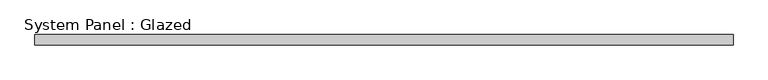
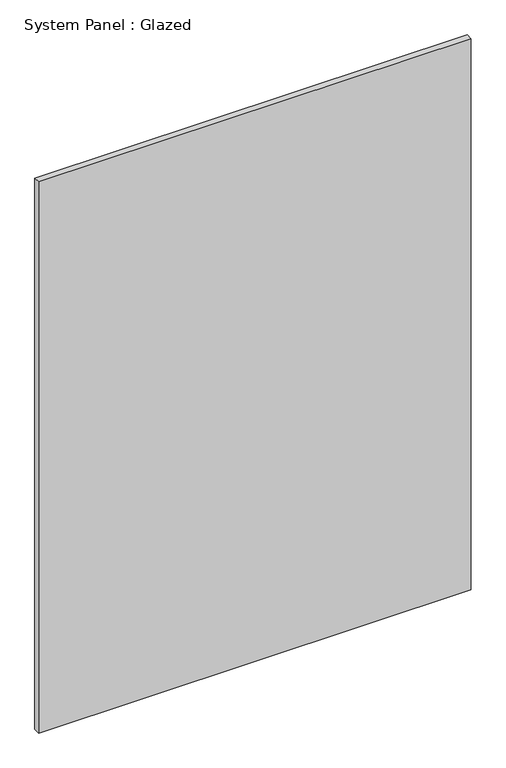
"""IFC4 building model written with IfcOpenShell, lengths in millimetres: plate geometry, System Panel : Glazed."""

import ifcopenshell
import ifcopenshell.guid

model = None  # the IFC model being written
_history = None  # IfcOwnerHistory: only IFC2X3 demands one
_inside = {}  # id of a spatial element -> (the spatial element, [elements in it])
_under = {}  # id of a project, library or spatial element -> (it, [spatial elements below it])
_declared = {}  # id of a project -> (the project, [libraries it declares])
_typed = {}  # id of a type object -> (the type object, [elements of that type])
_made_of = {}  # id of a material, layer set ... -> (it, [elements and type objects made of it])


def new_model(schema):
    """Start an empty IFC model of exactly this schema.

    Asked for "IFC4X3", IfcOpenShell would pick the latest addendum, in which some entities
    have other attributes; the version numbers below select the first issue.
    IFC2X3 requires an IfcOwnerHistory on every rooted entity: one is made here for all.
    """
    global model, _history
    if schema == "IFC4X3":
        model = ifcopenshell.file(schema_version=(4, 3, 0, 0))
    else:
        model = ifcopenshell.file(schema=schema)
    _inside.clear()
    _under.clear()
    _declared.clear()
    _typed.clear()
    _made_of.clear()
    _history = None
    if model.schema == "IFC2X3":
        org = make("IfcOrganization", Name="unknown")
        user = make(
            "IfcPersonAndOrganization",
            ThePerson=make("IfcPerson", FamilyName="unknown"),
            TheOrganization=org,
        )
        app = make(
            "IfcApplication",
            ApplicationDeveloper=org,
            Version="unknown",
            ApplicationFullName="unknown",
            ApplicationIdentifier="unknown",
        )
        _history = make(
            "IfcOwnerHistory",
            OwningUser=user,
            OwningApplication=app,
            ChangeAction="ADDED",
            CreationDate=0,
        )
    return model


def make(cls, **values):
    """One entity of the class cls with the attributes given. An attribute that is None is left unset."""
    return model.create_entity(
        cls, **{name: value for name, value in values.items() if value is not None}
    )


def rooted(cls, **values):
    """An entity with a GlobalId (a new one), such as an element, a storey or a relation."""
    return make(cls, GlobalId=ifcopenshell.guid.new(), OwnerHistory=_history, **values)


def si_unit(unit_type, name, prefix=None):
    """IfcSIUnit, for example si_unit("LENGTHUNIT", "METRE", prefix="MILLI")."""
    return make("IfcSIUnit", UnitType=unit_type, Prefix=prefix, Name=name)


def assignment(units):
    """IfcUnitAssignment: the units of a project."""
    return None if units is None else make("IfcUnitAssignment", Units=units)


def point(xyz):
    """IfcCartesianPoint."""
    return None if xyz is None else make("IfcCartesianPoint", Coordinates=xyz)


def direction(xyz):
    """IfcDirection."""
    return None if xyz is None else make("IfcDirection", DirectionRatios=xyz)


def frame(location, z_axis=None, x_axis=None):
    """IfcAxis2Placement3D, a coordinate frame: its origin and axes. An axis left out is left unset."""
    return make(
        "IfcAxis2Placement3D",
        Location=point(location),
        Axis=direction(z_axis),
        RefDirection=direction(x_axis),
    )


def origin():
    """The frame at (0, 0, 0) with its axes left unset."""
    return frame((0.0, 0.0, 0.0))


def origin_with_axes():
    """The frame at (0, 0, 0) with the z axis (0, 0, 1) and the x axis (1, 0, 0) written out."""
    return frame((0.0, 0.0, 0.0), z_axis=(0.0, 0.0, 1.0), x_axis=(1.0, 0.0, 0.0))


def place(relative_to, where):
    """IfcLocalPlacement: puts the frame where relative to a parent placement (None: the world)."""
    return make(
        "IfcLocalPlacement", PlacementRelTo=relative_to, RelativePlacement=where
    )


def context(
    kind, dimensions, precision=None, world=None, true_north=None, identifier=None
):
    """IfcGeometricRepresentationContext, for example the 3D "Model" context."""
    return make(
        "IfcGeometricRepresentationContext",
        ContextIdentifier=identifier,
        ContextType=kind,
        CoordinateSpaceDimension=dimensions,
        Precision=precision,
        WorldCoordinateSystem=world,
        TrueNorth=true_north,
    )


def project(units=None, contexts=None):
    """IfcProject with its units and contexts."""
    return rooted(
        "IfcProject",
        Name="project",
        RepresentationContexts=contexts,
        UnitsInContext=assignment(units),
    )


def spatial(cls, under=None, at=None, **own):
    """A site, building, storey or space (cls), placed at a placement, below another one or the project."""
    s = rooted(cls, ObjectPlacement=at, **own)
    if under is not None:
        _under.setdefault(under.id(), (under, []))[1].append(s)
    return s


def polyline(points):
    """IfcPolyline through the points."""
    return make("IfcPolyline", Points=[point(p) for p in points])


def outline(outer, holes=None, kind="AREA"):
    """IfcArbitraryClosedProfileDef: a profile drawn as a closed curve; with holes, ...WithVoids."""
    if holes is None:
        return make("IfcArbitraryClosedProfileDef", ProfileType=kind, OuterCurve=outer)
    return make(
        "IfcArbitraryProfileDefWithVoids",
        ProfileType=kind,
        OuterCurve=outer,
        InnerCurves=holes,
    )


def extrude(swept, where, along, depth):
    """IfcExtrudedAreaSolid: the profile swept, set in the frame where, extruded along a direction by depth."""
    return make(
        "IfcExtrudedAreaSolid",
        SweptArea=swept,
        Position=where,
        ExtrudedDirection=direction(along),
        Depth=depth,
    )


def shape(context_of_items, identifier, shape_type, items):
    """IfcShapeRepresentation: the items that make up one representation, for example the "Body"."""
    return make(
        "IfcShapeRepresentation",
        ContextOfItems=context_of_items,
        RepresentationIdentifier=identifier,
        RepresentationType=shape_type,
        Items=items,
    )


def source(mapping_origin, context_of_items, identifier, shape_type, items):
    """IfcRepresentationMap: a shape defined once, which mapped items show again and again."""
    return make(
        "IfcRepresentationMap",
        MappingOrigin=mapping_origin,
        MappedRepresentation=shape(context_of_items, identifier, shape_type, items),
    )


def transform(
    local_origin,
    x_axis=None,
    y_axis=None,
    z_axis=None,
    scale=None,
    scale2=None,
    scale3=None,
    uniform=True,
):
    """IfcCartesianTransformationOperator3D, or its non-uniform kind. x_axis, y_axis, z_axis: its Axis1, 2, 3."""
    if uniform:
        return make(
            "IfcCartesianTransformationOperator3D",
            Axis1=direction(x_axis),
            Axis2=direction(y_axis),
            LocalOrigin=point(local_origin),
            Scale=scale,
            Axis3=direction(z_axis),
        )
    return make(
        "IfcCartesianTransformationOperator3DnonUniform",
        Axis1=direction(x_axis),
        Axis2=direction(y_axis),
        LocalOrigin=point(local_origin),
        Scale=scale,
        Axis3=direction(z_axis),
        Scale2=scale2,
        Scale3=scale3,
    )


def mapped(mapping_source, mapping_target):
    """IfcMappedItem: shows the shape of a source again, moved by a transform."""
    return make(
        "IfcMappedItem", MappingSource=mapping_source, MappingTarget=mapping_target
    )


def made_of(thing, what):
    """Note that an element or type object is made of a material, layer set ...; save() writes the relation."""
    if what is not None:
        _made_of.setdefault(what.id(), (what, []))[1].append(thing)
    return thing


def element(
    cls,
    number,
    at=None,
    inside=None,
    cuts=None,
    type_object=None,
    material=None,
    context=None,
    identifier="Body",
    shape_type=None,
    held_by="IfcProductDefinitionShape",
    body=None,
    shapes=None,
    **own,
):
    """One element of the class cls, such as IfcWall. Its Tag is "e" and its number.

    at: its placement. inside: the storey or other place that contains it. cuts: it is an
    opening in that element (IfcRelVoidsElement). A single representation is given by context,
    identifier, shape_type and body (its items); several are given by shapes. held_by: the class
    of the entity that holds the representations. save() writes the other relations.
    """
    e = rooted(cls, Tag="e%d" % number, ObjectPlacement=at, **own)
    if body is not None:
        shapes = [shape(context, identifier, shape_type, body)]
    if shapes is not None:
        e.Representation = make(held_by, Representations=shapes)
    if inside is not None:
        _inside.setdefault(inside.id(), (inside, []))[1].append(e)
    if cuts is not None:
        rooted(
            "IfcRelVoidsElement", RelatingBuildingElement=cuts, RelatedOpeningElement=e
        )
    if type_object is not None:
        _typed.setdefault(type_object.id(), (type_object, []))[1].append(e)
    return made_of(e, material)


def aggregate(whole, parts):
    """IfcRelAggregates: a whole, such as a stair, and the parts it consists of."""
    return rooted("IfcRelAggregates", RelatingObject=whole, RelatedObjects=parts)


def save(model, path):
    """Write the relations noted so far, then the file.

    IfcRelAggregates (storeys below a building ...), IfcRelContainedInSpatialStructure (elements
    in a storey), IfcRelDefinesByType, IfcRelAssociatesMaterial and IfcRelDeclares: one each for
    every whole, place, type object, material and project.
    """
    for whole, parts in _under.values():
        aggregate(whole, parts)
    for where, things in _inside.values():
        rooted(
            "IfcRelContainedInSpatialStructure",
            RelatedElements=things,
            RelatingStructure=where,
        )
    for kind, things in _typed.values():
        rooted("IfcRelDefinesByType", RelatedObjects=things, RelatingType=kind)
    for what, things in _made_of.values():
        rooted("IfcRelAssociatesMaterial", RelatedObjects=things, RelatingMaterial=what)
    for by, libraries in _declared.values():
        rooted("IfcRelDeclares", RelatingContext=by, RelatedDefinitions=libraries)
    model.write(path)


def system_panel_glazed_bac47144(model_context):
    return source(origin(), model_context, "Body", "SweptSolid", [
        extrude(outline(polyline([(857.1642504, 19.05), (-857.1642504, 19.05), (-857.1642504, 44.45), (857.1642504, 44.45), (857.1642504, 19.05)])), origin_with_axes(), (0.0, 0.0, 1.0), 2307.6414857),
    ])


if __name__ == "__main__":
    model = new_model("IFC4")
    model_context = context("Model", 3, world=origin())
    ifc_project = project(units=[si_unit("LENGTHUNIT", "METRE", prefix="MILLI")], contexts=[model_context])
    site = spatial("IfcSite", under=ifc_project)
    building = spatial("IfcBuilding", under=site)
    placement = place(None, origin())
    system_panel_glazed_shape = system_panel_glazed_bac47144(model_context)
    element("IfcPlate", 1, ObjectType="System Panel : Glazed", at=placement, inside=building, context=model_context, shape_type="MappedRepresentation", body=[
        mapped(system_panel_glazed_shape, transform((0.0, 0.0, 0.0), x_axis=(1.0, 0.0, 0.0), y_axis=(0.0, 1.0, 0.0), z_axis=(0.0, 0.0, 1.0))),
    ])
    save(model, "model.ifc")
